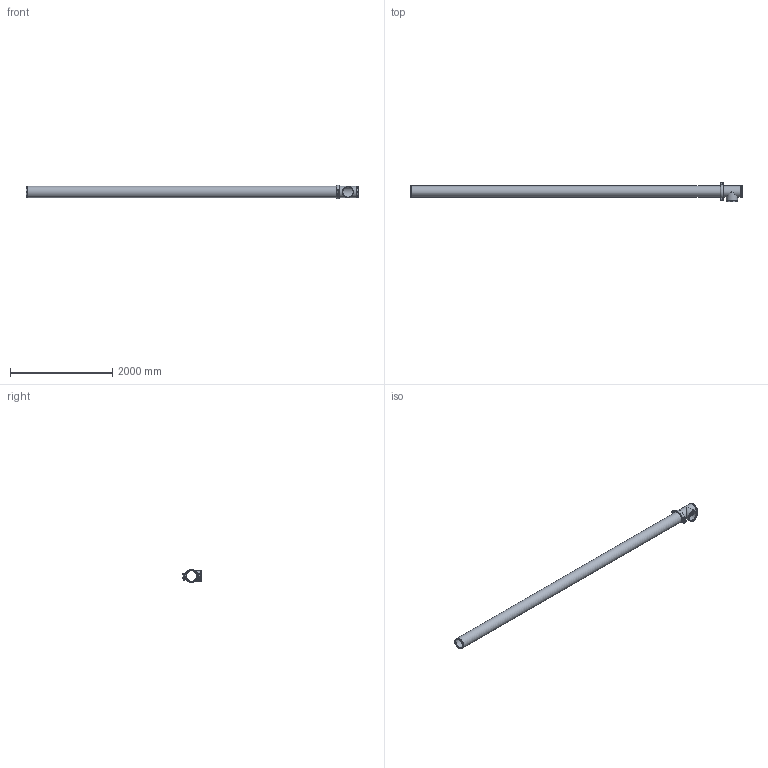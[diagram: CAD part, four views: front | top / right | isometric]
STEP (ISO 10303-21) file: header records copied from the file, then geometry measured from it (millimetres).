
FILE_DESCRIPTION(/* description */ ('VIC LONG RUN FITTING No R12 (OGS)','CAx-IF Rec.Pracs.---Representation and Presentation of Product Manufacturing Information (PMI)---4.0---2014-10-13'),/* implementation_level */ '2;1');
FILE_NAME(/* name */ 'C:\Users\Vjadhav\AppData\Roaming\Autodesk\ApplicationPlugins\Back Up\Victaulic_IPS_Long Run Fittings_No R12 (OGS)\Victaulic_IPS_Long Run Fittings_No R12 (OGS)_8 (200).stp',/* time_stamp */ '2020-10-06T18:49:13+05:00',/* author */ ('Vjadhav'),/* organization */ ('Victaulic'),/* preprocessor_version */ 'ST-DEVELOPER v17.2',/* originating_system */ 'Autodesk Inventor 2019',/* authorisation */ '');
FILE_SCHEMA (('AP242_MANAGED_MODEL_BASED_3D_ENGINEERING_MIM_LF { 1 0 10303 442 1 1 4 }'));
Length unit declared in the file: inch
Products named in the file (4): R12-08.0; 020-08.0; 107N-08.0; Pipe_R10-08.0
Assembly tree (3 placements, depth 2):
  R12-08.0
    020-08.0
    107N-08.0
    Pipe_R10-08.0
Bounding box: 6494.78 x 377.82 x 266.7 mm (x, y, z)
Volume: 36718500.9 mm3; surface area: 8904532.4 mm2
Topology: 3 solids, 3 shells, 154 faces, 401 edges, 272 vertices
Faces by surface type: plane 65, cylinder 61, bspline 16, torus 6, cone 4, sphere 2
Full cylindrical faces by diameter (mm): 19.05 x4, 32.537 x2, 202.717 x3, 206.375 x1, 214.401 x5, 219.075 x10
Entity records: 5755 total; most frequent: CARTESIAN_POINT 1518, DIRECTION 859, ORIENTED_EDGE 802, EDGE_CURVE 401, AXIS2_PLACEMENT_3D 341, VERTEX_POINT 272, EDGE_LOOP 185, LINE 177
